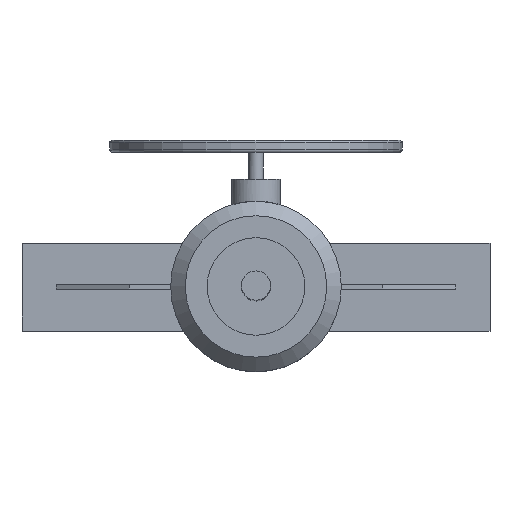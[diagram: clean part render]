
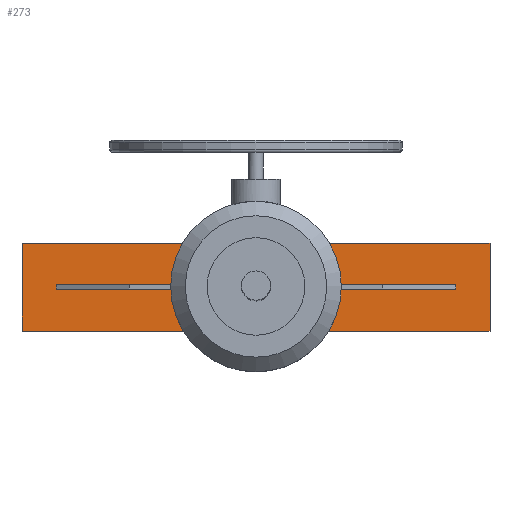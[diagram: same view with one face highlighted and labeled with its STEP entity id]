
A CAD part, top view. The second image highlights one B-rep face of the part: STEP entity #273.
In plain terms, the highlighted planar face has unit normal (0, 0, 1).
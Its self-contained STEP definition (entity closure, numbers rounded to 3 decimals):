
#273=ADVANCED_FACE('',(#2593,#2595),#2597,.T.);
#2593=FACE_BOUND('',#2594,.T.);
#2594=EDGE_LOOP('',(#4559,#4560,#4561,#4562,#4563,#4564,#4565,#4566));
#2595=FACE_BOUND('',#2596,.T.);
#2596=EDGE_LOOP('',(#4567,#4568,#4569,#4570));
#2597=PLANE('',#2598);
#2598=AXIS2_PLACEMENT_3D('',#2599,#2600,#2601);
#2599=CARTESIAN_POINT('',(0.,0.,760.));
#2600=DIRECTION('',(0.,0.,1.));
#2601=DIRECTION('',(1.,0.,0.));
#4559=ORIENTED_EDGE('',*,*,#5675,.F.);
#4560=ORIENTED_EDGE('',*,*,#5673,.T.);
#4561=ORIENTED_EDGE('',*,*,#5686,.T.);
#4562=ORIENTED_EDGE('',*,*,#5679,.T.);
#4563=ORIENTED_EDGE('',*,*,#5678,.F.);
#4564=ORIENTED_EDGE('',*,*,#5683,.T.);
#4565=ORIENTED_EDGE('',*,*,#5687,.T.);
#4566=ORIENTED_EDGE('',*,*,#5669,.T.);
#4567=ORIENTED_EDGE('',*,*,#5688,.F.);
#4568=ORIENTED_EDGE('',*,*,#5689,.F.);
#4569=ORIENTED_EDGE('',*,*,#5690,.F.);
#4570=ORIENTED_EDGE('',*,*,#5691,.F.);
#5669=EDGE_CURVE('',#6290,#6273,#6291,.T.);
#5673=EDGE_CURVE('',#6253,#6296,#6298,.T.);
#5675=EDGE_CURVE('',#6253,#6273,#6300,.T.);
#5678=EDGE_CURVE('',#6267,#6259,#6304,.T.);
#5679=EDGE_CURVE('',#6305,#6259,#6306,.T.);
#5683=EDGE_CURVE('',#6267,#6311,#6313,.T.);
#5686=EDGE_CURVE('',#6296,#6305,#6318,.T.);
#5687=EDGE_CURVE('',#6311,#6290,#6319,.T.);
#5688=EDGE_CURVE('',#6320,#6321,#6322,.T.);
#5689=EDGE_CURVE('',#6323,#6320,#6324,.F.);
#5690=EDGE_CURVE('',#6325,#6323,#6326,.T.);
#5691=EDGE_CURVE('',#6321,#6325,#6327,.T.);
#6253=VERTEX_POINT('',#7310);
#6259=VERTEX_POINT('',#7322);
#6267=VERTEX_POINT('',#7340);
#6273=VERTEX_POINT('',#7352);
#6290=VERTEX_POINT('',#7400);
#6291=LINE('',#7401,#7402);
#6296=VERTEX_POINT('',#7412);
#6298=LINE('',#7416,#7417);
#6300=LINE('',#7422,#7423);
#6304=LINE('',#7433,#7434);
#6305=VERTEX_POINT('',#7436);
#6306=LINE('',#7437,#7438);
#6311=VERTEX_POINT('',#7448);
#6313=LINE('',#7452,#7453);
#6318=LINE('',#7465,#7466);
#6319=LINE('',#7468,#7469);
#6320=VERTEX_POINT('',#7471);
#6321=VERTEX_POINT('',#7472);
#6322=LINE('',#7473,#7474);
#6323=VERTEX_POINT('',#7476);
#6324=LINE('',#7477,#7478);
#6325=VERTEX_POINT('',#7480);
#6326=LINE('',#7481,#7482);
#6327=LINE('',#7484,#7485);
#7310=CARTESIAN_POINT('',(140.,-90.,760.));
#7322=CARTESIAN_POINT('',(140.,90.,760.));
#7340=CARTESIAN_POINT('',(-140.,90.,760.));
#7352=CARTESIAN_POINT('',(-140.,-90.,760.));
#7400=CARTESIAN_POINT('',(-480.,-90.,760.));
#7401=CARTESIAN_POINT('',(-480.,-90.,760.));
#7402=VECTOR('',#7403,1.);
#7403=DIRECTION('',(1.,0.,0.));
#7412=CARTESIAN_POINT('',(480.,-90.,760.));
#7416=CARTESIAN_POINT('',(140.,-90.,760.));
#7417=VECTOR('',#7418,1.);
#7418=DIRECTION('',(1.,0.,0.));
#7422=CARTESIAN_POINT('',(140.,-90.,760.));
#7423=VECTOR('',#7424,1.);
#7424=DIRECTION('',(-1.,0.,0.));
#7433=CARTESIAN_POINT('',(-140.,90.,760.));
#7434=VECTOR('',#7435,1.);
#7435=DIRECTION('',(1.,0.,0.));
#7436=CARTESIAN_POINT('',(480.,90.,760.));
#7437=CARTESIAN_POINT('',(480.,90.,760.));
#7438=VECTOR('',#7439,1.);
#7439=DIRECTION('',(-1.,0.,0.));
#7448=CARTESIAN_POINT('',(-480.,90.,760.));
#7452=CARTESIAN_POINT('',(-140.,90.,760.));
#7453=VECTOR('',#7454,1.);
#7454=DIRECTION('',(-1.,0.,0.));
#7465=CARTESIAN_POINT('',(480.,-90.,760.));
#7466=VECTOR('',#7467,1.);
#7467=DIRECTION('',(0.,1.,0.));
#7468=CARTESIAN_POINT('',(-480.,90.,760.));
#7469=VECTOR('',#7470,1.);
#7470=DIRECTION('',(0.,-1.,0.));
#7471=CARTESIAN_POINT('',(-410.,5.,760.));
#7472=CARTESIAN_POINT('',(-410.,-5.,760.));
#7473=CARTESIAN_POINT('',(-410.,5.,760.));
#7474=VECTOR('',#7475,1.);
#7475=DIRECTION('',(0.,-1.,0.));
#7476=CARTESIAN_POINT('',(410.,5.,760.));
#7477=CARTESIAN_POINT('',(-410.,5.,760.));
#7478=VECTOR('',#7479,1.);
#7479=DIRECTION('',(1.,0.,0.));
#7480=CARTESIAN_POINT('',(410.,-5.,760.));
#7481=CARTESIAN_POINT('',(410.,-5.,760.));
#7482=VECTOR('',#7483,1.);
#7483=DIRECTION('',(0.,1.,0.));
#7484=CARTESIAN_POINT('',(-410.,-5.,760.));
#7485=VECTOR('',#7486,1.);
#7486=DIRECTION('',(1.,0.,0.));
